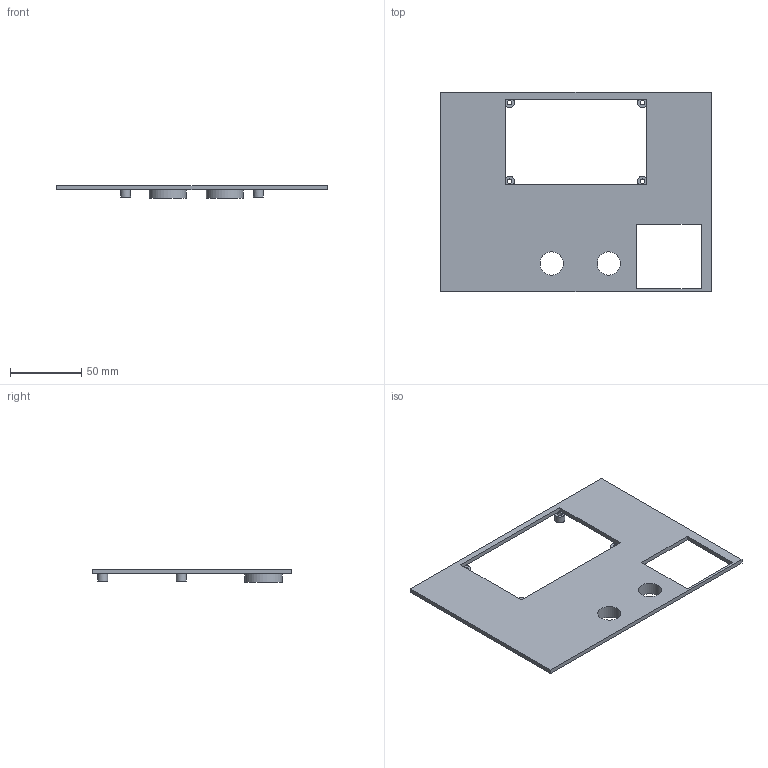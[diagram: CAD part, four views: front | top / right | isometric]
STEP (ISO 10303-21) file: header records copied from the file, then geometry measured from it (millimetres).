
FILE_DESCRIPTION(('Open CASCADE Model'),'2;1');
FILE_NAME('Open CASCADE Shape Model','2026-10-02T14:10:54',('Author'),( 'Open CASCADE'),'Open CASCADE STEP processor 8.0','build123d', 'Unknown');
FILE_SCHEMA(('AUTOMOTIVE_DESIGN { 1 0 10303 214 1 1 1 1 }'));
Length unit declared in the file: millimetre
Products named in the file (1): COMPOUND
Bounding box: 189.2 x 139.2 x 9 mm (x, y, z)
Volume: 58518.8 mm3; surface area: 42219.4 mm2
Topology: 1 solids, 1 shells, 36 faces, 104 edges, 64 vertices
Faces by surface type: plane 24, cylinder 12
Full cylindrical faces by diameter (mm): 3.2 x4, 7 x4, 16.3 x2, 26 x2
Entity records: 2534 total; most frequent: CARTESIAN_POINT 469, DIRECTION 370, ORIENTED_EDGE 208, PCURVE 208, DEFINITIONAL_REPRESENTATION 208, LINE 176, VECTOR 176, EDGE_CURVE 104
